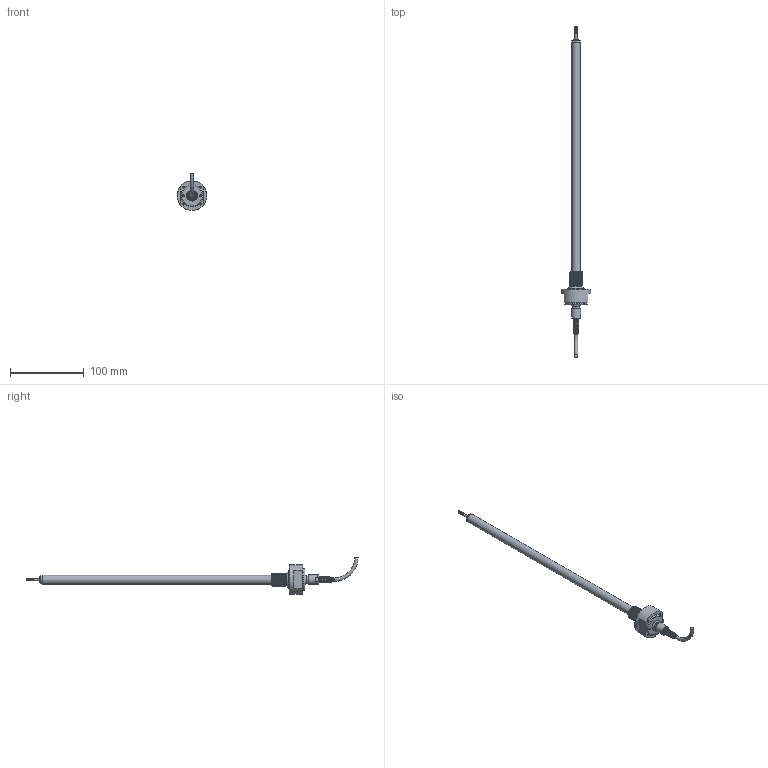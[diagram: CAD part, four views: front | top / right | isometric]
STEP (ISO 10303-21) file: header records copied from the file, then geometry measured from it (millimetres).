
FILE_DESCRIPTION( ( 'STEP AP214' ), '1' );
FILE_NAME( 'N:/Engineering/CAD_Solid/LVDT/HYD/Kunden-3D-Modell/SM160-HYD-18-K.stp', '2011-12-14T13:52:24', ( ' ' ), ( ' ' ), 'XStep 1.0', ' ', ' ' );
FILE_SCHEMA( ( 'CONFIG_CONTROL_DESIGN) ( )' ) );
Length unit declared in the file: metre
Products named in the file (12): 1; 2; 3; 4; 5; 6; 7; 8; 9; 10; 11; 12
Bounding box: 40 x 450.25 x 50 mm (x, y, z)
Volume: 1245.2 mm3; surface area: 23908.9 mm2
Topology: 2 solids, 73 shells, 77 faces, 282 edges, 234 vertices
Faces by surface type: plane 24, cylinder 21, cone 16, bspline 11, torus 5
Full cylindrical faces by diameter (mm): 2.5 x5, 2.6 x2, 3 x1, 4.5 x1, 6 x1, 8 x1, 10.6 x1, 11 x1, 12 x1, 13 x1, 15.8 x1, 24 x1, 30 x1, 40 x1
Entity records: 17512 total; most frequent: CARTESIAN_POINT 14837, DIRECTION 440, ORIENTED_EDGE 210, EDGE_CURVE 207, VERTEX_POINT 207, AXIS2_PLACEMENT_3D 206, CIRCLE 129, EDGE_LOOP 128
